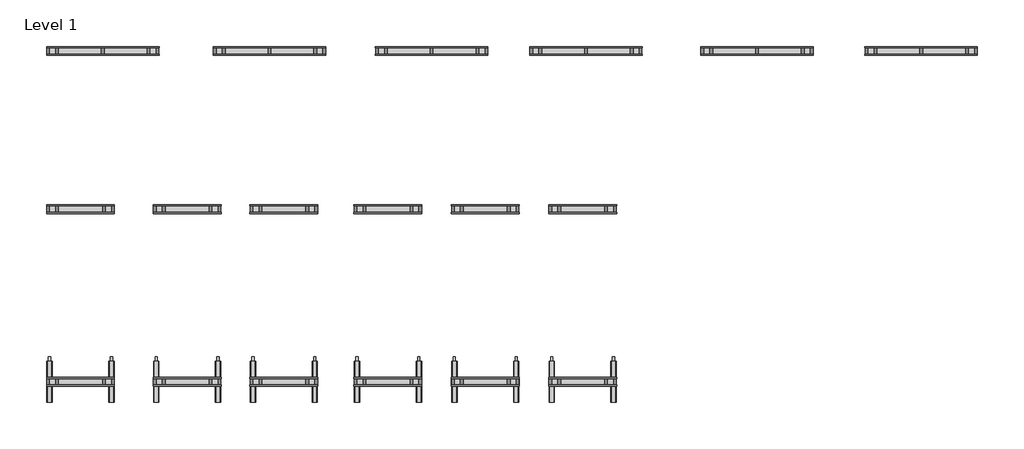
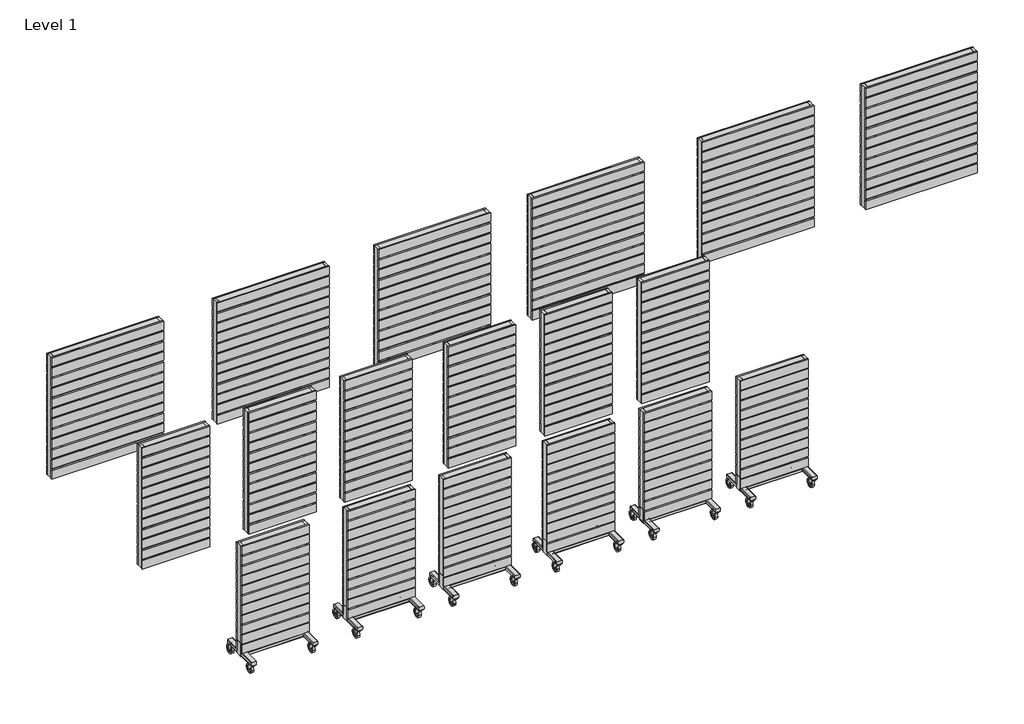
# One storey: 18 furniture elements.
"""IFC4 building model written with IfcOpenShell, lengths in millimetres."""

from ifc_helpers import new_model, si_unit, origin, place, context, project, spatial, transform, mapped, element, save
from components import furniture_4ffba0c0, furniture_77da2620, furniture_04ca8156

model = new_model("IFC4")

# Units and contexts
model_context = context("Model", 3, world=origin())
ifc_project = project(units=[si_unit("LENGTHUNIT", "METRE", prefix="MILLI")], contexts=[model_context])

# Site, building, storey
site = spatial("IfcSite", under=ifc_project)
building = spatial("IfcBuilding", under=site)
storey = spatial("IfcBuildingStorey", under=building, Name="Level 1", Elevation=0.0)

# Furniture
placement = place(None, origin())
furniture_shape = furniture_4ffba0c0(model_context)
element("IfcFurniture", 1, ObjectType="GMi_Companies-Pallet : PLTM-7238-KP-UW", at=placement, inside=storey, context=model_context, shape_type="MappedRepresentation", body=[
    mapped(furniture_shape, transform((-15521.6324664, -1193.5461182, 0.0), x_axis=(1.0, 0.0, 0.0), y_axis=(0.0, 1.0, 0.0), z_axis=(0.0, 0.0, 1.0))),
])
element("IfcFurniture", 2, ObjectType="GMi_Companies-Pallet : PLTM-7238-KP-MC", at=placement, inside=storey, context=model_context, shape_type="MappedRepresentation", body=[
    mapped(furniture_shape, transform((-18414.0086462, -1193.5461182, 0.0), x_axis=(1.0, 0.0, 0.0), y_axis=(0.0, 1.0, 0.0), z_axis=(0.0, 0.0, 1.0))),
])
element("IfcFurniture", 3, ObjectType="GMi_Companies-Pallet : PLTM-7238-KP-NT", at=placement, inside=storey, context=model_context, shape_type="MappedRepresentation", body=[
    mapped(furniture_shape, transform((-16896.4365007, -1193.5461182, 0.0), x_axis=(1.0, 0.0, 0.0), y_axis=(0.0, 1.0, 0.0), z_axis=(0.0, 0.0, 1.0))),
])
element("IfcFurniture", 4, ObjectType="GMi_Companies-Pallet : PLTM-7238-PP-JV", at=placement, inside=storey, context=model_context, shape_type="MappedRepresentation", body=[
    mapped(furniture_shape, transform((-14041.6427042, -1193.5461182, 0.0), x_axis=(1.0, 0.0, 0.0), y_axis=(0.0, 1.0, 0.0), z_axis=(0.0, 0.0, 1.0))),
])
element("IfcFurniture", 5, ObjectType="GMi_Companies-Pallet : PLTM-7238-PP-MC", at=placement, inside=storey, context=model_context, shape_type="MappedRepresentation", body=[
    mapped(furniture_shape, transform((-12657.0299718, -1193.5461182, 0.0), x_axis=(1.0, 0.0, 0.0), y_axis=(0.0, 1.0, 0.0), z_axis=(0.0, 0.0, 1.0))),
])
element("IfcFurniture", 6, ObjectType="GMi_Companies-Pallet : PLTM-7238-PP-UW", at=placement, inside=storey, context=model_context, shape_type="MappedRepresentation", body=[
    mapped(furniture_shape, transform((-11272.4172395, -1193.5461182, 0.0), x_axis=(1.0, 0.0, 0.0), y_axis=(0.0, 1.0, 0.0), z_axis=(0.0, 0.0, 1.0))),
])
furniture_2_shape = furniture_77da2620(model_context)
element("IfcFurniture", 7, ObjectType="GMi_Companies-Pallet : PLTW-7238-KP-UW", at=placement, inside=storey, context=model_context, shape_type="MappedRepresentation", body=[
    mapped(furniture_2_shape, transform((-15521.6324664, 1262.0661777, 0.0), x_axis=(1.0, 0.0, 0.0), y_axis=(0.0, 1.0, 0.0), z_axis=(0.0, 0.0, 1.0))),
])
element("IfcFurniture", 8, ObjectType="GMi_Companies-Pallet : PLTW-7238-KP-MC", at=placement, inside=storey, context=model_context, shape_type="MappedRepresentation", body=[
    mapped(furniture_2_shape, transform((-18414.0086462, 1262.0661777, 0.0), x_axis=(1.0, 0.0, 0.0), y_axis=(0.0, 1.0, 0.0), z_axis=(0.0, 0.0, 1.0))),
])
element("IfcFurniture", 9, ObjectType="GMi_Companies-Pallet : PLTW-7238-KP-NT", at=placement, inside=storey, context=model_context, shape_type="MappedRepresentation", body=[
    mapped(furniture_2_shape, transform((-16896.4365007, 1262.0661777, 0.0), x_axis=(1.0, 0.0, 0.0), y_axis=(0.0, 1.0, 0.0), z_axis=(0.0, 0.0, 1.0))),
])
element("IfcFurniture", 10, ObjectType="GMi_Companies-Pallet : PLTW-7238-PP-JV", at=placement, inside=storey, context=model_context, shape_type="MappedRepresentation", body=[
    mapped(furniture_2_shape, transform((-14041.6427042, 1262.0661777, 0.0), x_axis=(1.0, 0.0, 0.0), y_axis=(0.0, 1.0, 0.0), z_axis=(0.0, 0.0, 1.0))),
])
element("IfcFurniture", 11, ObjectType="GMi_Companies-Pallet : PLTW-7238-PP-MC", at=placement, inside=storey, context=model_context, shape_type="MappedRepresentation", body=[
    mapped(furniture_2_shape, transform((-12657.0299718, 1262.0661777, 0.0), x_axis=(1.0, 0.0, 0.0), y_axis=(0.0, 1.0, 0.0), z_axis=(0.0, 0.0, 1.0))),
])
element("IfcFurniture", 12, ObjectType="GMi_Companies-Pallet : PLTW-7238-PP-UW", at=placement, inside=storey, context=model_context, shape_type="MappedRepresentation", body=[
    mapped(furniture_2_shape, transform((-11272.4172395, 1262.0661777, 0.0), x_axis=(1.0, 0.0, 0.0), y_axis=(0.0, 1.0, 0.0), z_axis=(0.0, 0.0, 1.0))),
])
furniture_3_shape = furniture_04ca8156(model_context)
element("IfcFurniture", 13, ObjectType="GMi_Companies-Pallet : PLTW-7263-KP-UW", at=placement, inside=storey, context=model_context, shape_type="MappedRepresentation", body=[
    mapped(furniture_3_shape, transform((-13736.8935217, 3509.9382216, 0.0), x_axis=(1.0, 0.0, 0.0), y_axis=(0.0, 1.0, 0.0), z_axis=(0.0, 0.0, 1.0))),
])
element("IfcFurniture", 14, ObjectType="GMi_Companies-Pallet : PLTW-7263-KP-MC", at=placement, inside=storey, context=model_context, shape_type="MappedRepresentation", body=[
    mapped(furniture_3_shape, transform((-18414.0086462, 3509.9382216, 0.0), x_axis=(1.0, 0.0, 0.0), y_axis=(0.0, 1.0, 0.0), z_axis=(0.0, 0.0, 1.0))),
])
element("IfcFurniture", 15, ObjectType="GMi_Companies-Pallet : PLTW-7263-KP-NT", at=placement, inside=storey, context=model_context, shape_type="MappedRepresentation", body=[
    mapped(furniture_3_shape, transform((-16043.620423, 3509.9382216, 0.0), x_axis=(1.0, 0.0, 0.0), y_axis=(0.0, 1.0, 0.0), z_axis=(0.0, 0.0, 1.0))),
])
element("IfcFurniture", 16, ObjectType="GMi_Companies-Pallet : PLTW-7263-PP-JV", at=placement, inside=storey, context=model_context, shape_type="MappedRepresentation", body=[
    mapped(furniture_3_shape, transform((-11542.6898839, 3509.9382216, 0.0), x_axis=(1.0, 0.0, 0.0), y_axis=(0.0, 1.0, 0.0), z_axis=(0.0, 0.0, 1.0))),
])
element("IfcFurniture", 17, ObjectType="GMi_Companies-Pallet : PLTW-7263-PP-MC", at=placement, inside=storey, context=model_context, shape_type="MappedRepresentation", body=[
    mapped(furniture_3_shape, transform((-9109.3743112, 3509.9382216, 0.0), x_axis=(1.0, 0.0, 0.0), y_axis=(0.0, 1.0, 0.0), z_axis=(0.0, 0.0, 1.0))),
])
element("IfcFurniture", 18, ObjectType="GMi_Companies-Pallet : PLTW-7263-PP-UW", at=placement, inside=storey, context=model_context, shape_type="MappedRepresentation", body=[
    mapped(furniture_3_shape, transform((-6774.5165941, 3509.9382216, 0.0), x_axis=(1.0, 0.0, 0.0), y_axis=(0.0, 1.0, 0.0), z_axis=(0.0, 0.0, 1.0))),
])

save(model, "model.ifc")
